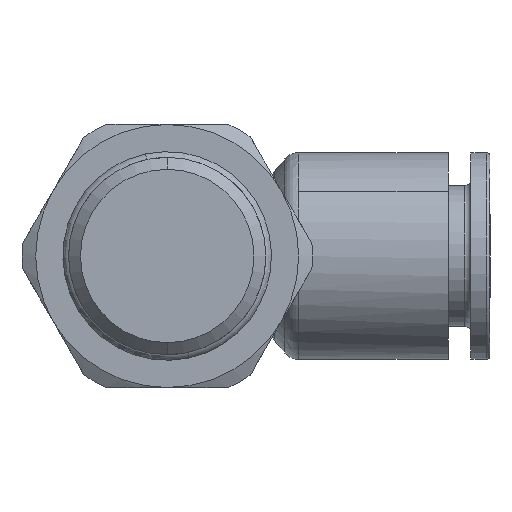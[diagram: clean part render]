
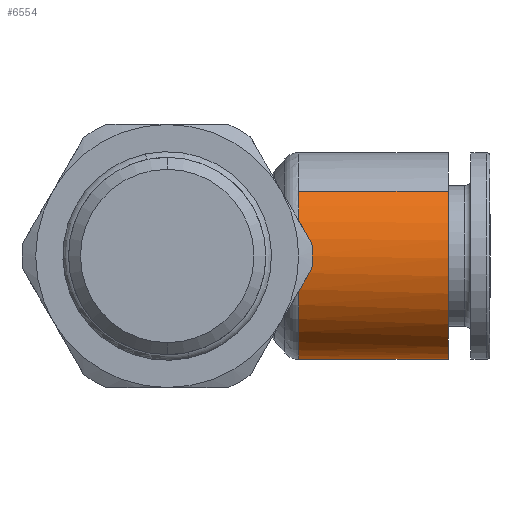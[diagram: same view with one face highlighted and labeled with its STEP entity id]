
A CAD part, left-side view. The second image highlights one B-rep face of the part: STEP entity #6554.
In plain terms, the highlighted cylindrical face has radius 8.65 mm (diameter 17.3 mm), a partial arc.
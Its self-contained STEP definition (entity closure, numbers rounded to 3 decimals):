
#945 = CYLINDRICAL_SURFACE ( 'NONE', #11515, 8.65 ) ;
#1071 = VERTEX_POINT ( 'NONE', #8625 ) ;
#1077 = ORIENTED_EDGE ( 'NONE', *, *, #13153, .T. ) ;
#1332 = EDGE_LOOP ( 'NONE', ( #14314, #11357, #1077, #13722, #9643 ) ) ;
#2252 = DIRECTION ( 'NONE',  ( 0.781, 0., -0.625 ) ) ;
#2464 = EDGE_CURVE ( 'NONE', #3559, #1071, #14530, .T. ) ;
#2649 = VERTEX_POINT ( 'NONE', #4428 ) ;
#3048 = CIRCLE ( 'NONE', #6438, 8.65 ) ;
#3423 = LINE ( 'NONE', #10288, #13126 ) ;
#3469 = CARTESIAN_POINT ( 'NONE',  ( 0., -17.1, 0. ) ) ;
#3538 = CARTESIAN_POINT ( 'NONE',  ( 0., -23.5, 0. ) ) ;
#3559 = VERTEX_POINT ( 'NONE', #11728 ) ;
#4428 = CARTESIAN_POINT ( 'NONE',  ( -8.65, -10.999, 0. ) ) ;
#4575 = LINE ( 'NONE', #10997, #15311 ) ;
#4926 = CARTESIAN_POINT ( 'NONE',  ( 0., -10.999, 0. ) ) ;
#6145 = EDGE_CURVE ( 'NONE', #3559, #10449, #3423, .T. ) ;
#6438 = AXIS2_PLACEMENT_3D ( 'NONE', #13817, #15385, #11614 ) ;
#6554 = ADVANCED_FACE ( 'NONE', ( #12181 ), #945, .T. ) ;
#8113 = CIRCLE ( 'NONE', #14853, 8.65 ) ;
#8548 = DIRECTION ( 'NONE',  ( 0.781, 0., -0.625 ) ) ;
#8625 = CARTESIAN_POINT ( 'NONE',  ( -6.753, -23.5, 5.405 ) ) ;
#9305 = EDGE_CURVE ( 'NONE', #2649, #10449, #3048, .T. ) ;
#9643 = ORIENTED_EDGE ( 'NONE', *, *, #6145, .F. ) ;
#9664 = DIRECTION ( 'NONE',  ( 0., -1., 0. ) ) ;
#9716 = VERTEX_POINT ( 'NONE', #11683 ) ;
#9786 = DIRECTION ( 'NONE',  ( 0., 1., 0. ) ) ;
#9835 = CARTESIAN_POINT ( 'NONE',  ( 6.753, -10.999, -5.405 ) ) ;
#9890 = DIRECTION ( 'NONE',  ( 1., 0., 0. ) ) ;
#10288 = CARTESIAN_POINT ( 'NONE',  ( 6.753, -17.1, -5.405 ) ) ;
#10378 = AXIS2_PLACEMENT_3D ( 'NONE', #3538, #13548, #8548 ) ;
#10449 = VERTEX_POINT ( 'NONE', #9835 ) ;
#10997 = CARTESIAN_POINT ( 'NONE',  ( -6.753, -17.1, 5.405 ) ) ;
#11357 = ORIENTED_EDGE ( 'NONE', *, *, #14963, .T. ) ;
#11515 = AXIS2_PLACEMENT_3D ( 'NONE', #3469, #13410, #2252 ) ;
#11614 = DIRECTION ( 'NONE',  ( 1., 0., 0. ) ) ;
#11683 = CARTESIAN_POINT ( 'NONE',  ( -6.753, -10.999, 5.405 ) ) ;
#11728 = CARTESIAN_POINT ( 'NONE',  ( 6.753, -23.5, -5.405 ) ) ;
#12181 = FACE_OUTER_BOUND ( 'NONE', #1332, .T. ) ;
#13126 = VECTOR ( 'NONE', #13349, 1000. ) ;
#13153 = EDGE_CURVE ( 'NONE', #9716, #2649, #8113, .T. ) ;
#13349 = DIRECTION ( 'NONE',  ( 0., 1., 0. ) ) ;
#13410 = DIRECTION ( 'NONE',  ( 0., 1., 0. ) ) ;
#13548 = DIRECTION ( 'NONE',  ( 0., 1., 0. ) ) ;
#13722 = ORIENTED_EDGE ( 'NONE', *, *, #9305, .T. ) ;
#13817 = CARTESIAN_POINT ( 'NONE',  ( 0., -10.999, 0. ) ) ;
#14314 = ORIENTED_EDGE ( 'NONE', *, *, #2464, .T. ) ;
#14530 = CIRCLE ( 'NONE', #10378, 8.65 ) ;
#14853 = AXIS2_PLACEMENT_3D ( 'NONE', #4926, #9664, #9890 ) ;
#14963 = EDGE_CURVE ( 'NONE', #1071, #9716, #4575, .T. ) ;
#15311 = VECTOR ( 'NONE', #9786, 1000. ) ;
#15385 = DIRECTION ( 'NONE',  ( 0., -1., 0. ) ) ;
